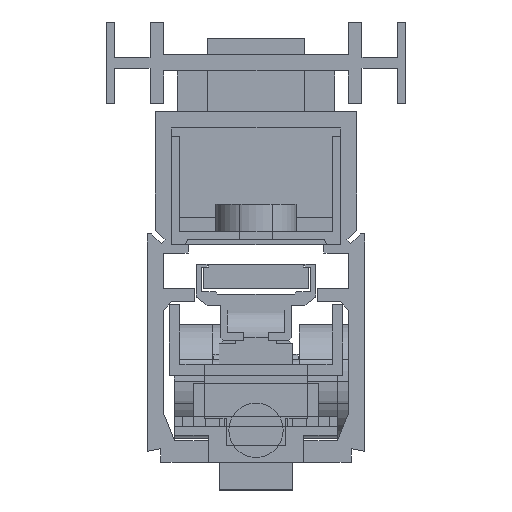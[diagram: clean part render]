
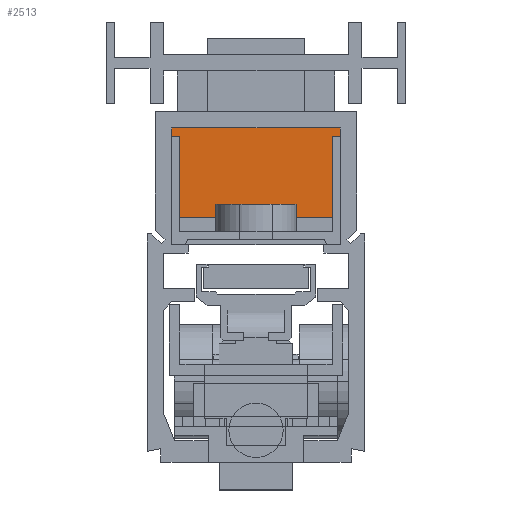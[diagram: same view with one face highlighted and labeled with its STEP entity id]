
A CAD part, left-side view. The second image highlights one B-rep face of the part: STEP entity #2513.
In plain terms, the highlighted planar face has unit normal (-1, 0, 0).
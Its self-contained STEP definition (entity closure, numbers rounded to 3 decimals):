
#2513=ADVANCED_FACE('',(#5897),#5898,.T.);
#5897=FACE_OUTER_BOUND('',#10282,.T.);
#5898=PLANE('',#10283);
#10282=EDGE_LOOP('',(#17223,#17224,#17225,#17226));
#10283=AXIS2_PLACEMENT_3D('',#17227,#17228,#17229);
#17223=ORIENTED_EDGE('',*,*,#27710,.T.);
#17224=ORIENTED_EDGE('',*,*,#27820,.T.);
#17225=ORIENTED_EDGE('',*,*,#27821,.T.);
#17226=ORIENTED_EDGE('',*,*,#27822,.T.);
#17227=CARTESIAN_POINT('',(0.,0.0,10.25));
#17228=DIRECTION('',(-1.0,0.,0.0));
#17229=DIRECTION('',(0.0,0.0,-1.0));
#27710=EDGE_CURVE('',#33484,#33482,#33485,.T.);
#27820=EDGE_CURVE('',#33482,#33642,#33643,.T.);
#27821=EDGE_CURVE('',#33642,#33644,#33645,.T.);
#27822=EDGE_CURVE('',#33644,#33484,#33646,.T.);
#33482=VERTEX_POINT('',#41801);
#33484=VERTEX_POINT('',#41804);
#33485=LINE('',#41805,#41806);
#33642=VERTEX_POINT('',#42014);
#33643=LINE('',#42015,#42016);
#33644=VERTEX_POINT('',#42017);
#33645=LINE('',#42018,#42019);
#33646=LINE('',#42020,#42021);
#41801=CARTESIAN_POINT('',(0.,-15.5,5.0));
#41804=CARTESIAN_POINT('',(0.,15.5,5.0));
#41805=CARTESIAN_POINT('',(0.,-1675.291,5.0));
#41806=VECTOR('',#51165,1.0);
#42014=CARTESIAN_POINT('',(0.,-15.5,21.5));
#42015=CARTESIAN_POINT('',(0.,-15.5,0.0));
#42016=VECTOR('',#51292,1.0);
#42017=CARTESIAN_POINT('',(0.,15.5,21.5));
#42018=CARTESIAN_POINT('',(0.,-15.0,21.5));
#42019=VECTOR('',#51293,1.0);
#42020=CARTESIAN_POINT('',(0.,15.5,20.5));
#42021=VECTOR('',#51294,1.0);
#51165=DIRECTION('',(0.,-1.0,0.0));
#51292=DIRECTION('',(0.0,0.0,1.0));
#51293=DIRECTION('',(0.,1.0,0.0));
#51294=DIRECTION('',(0.0,-0.0,-1.0));
